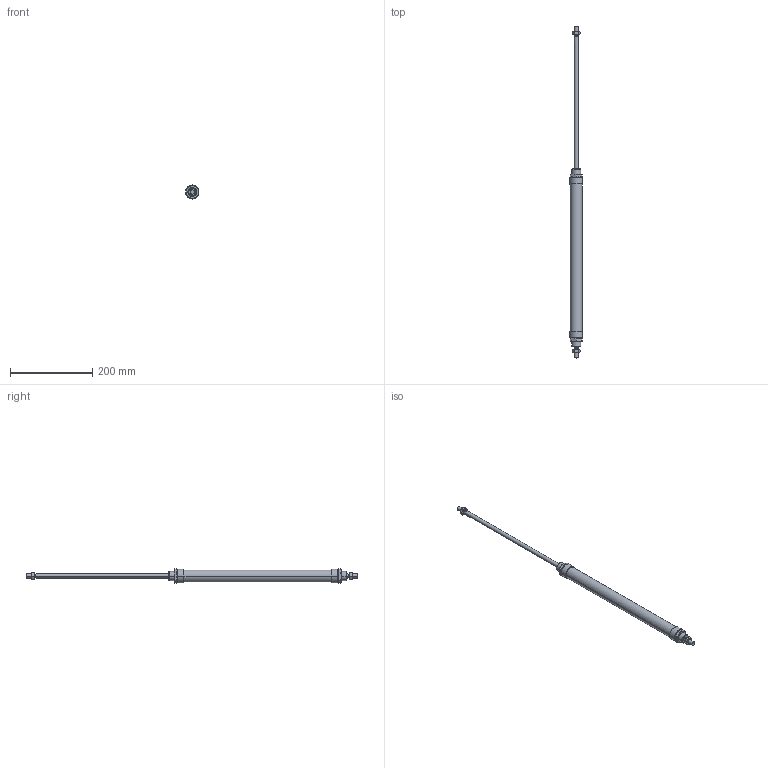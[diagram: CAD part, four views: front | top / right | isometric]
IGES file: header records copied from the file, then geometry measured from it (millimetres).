
Global section: file name: No Iges File Name specified; native system: AutoDesk Inventor R6.0; preprocessor: AutoDesk Inventor Iges Exporter R6.0; author: No Author specified; organization: No Organization specified; date: 20030403.072538; units: millimetre
Bounding box: 31.5 x 809 x 34.64 mm (x, y, z)
Volume: 315513.3 mm3; surface area: 85977.6 mm2
Topology: 6 solids, 6 shells, 184 faces, 396 edges, 232 vertices
Faces by surface type: cone 68, plane 60, bspline 30, cylinder 20, revolution 6
